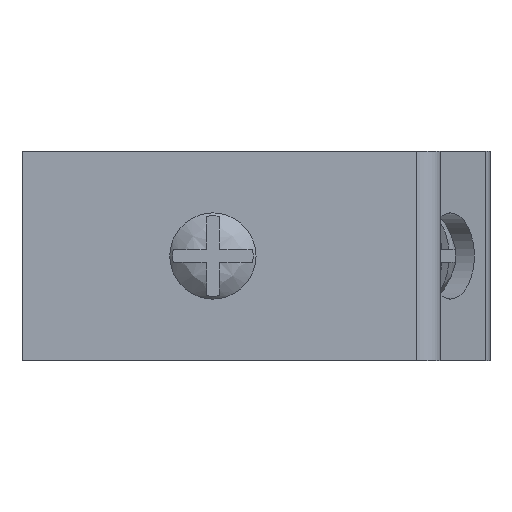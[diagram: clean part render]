
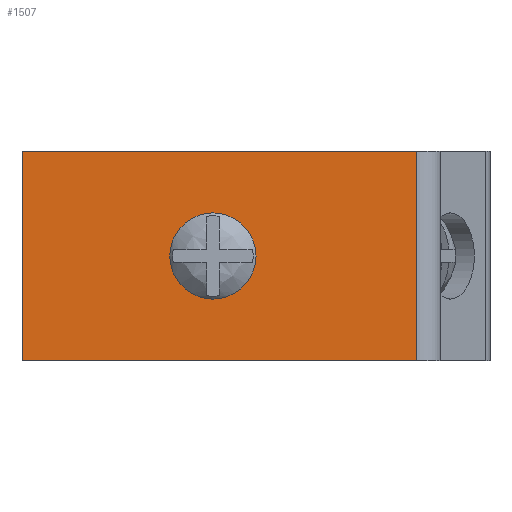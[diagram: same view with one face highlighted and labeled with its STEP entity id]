
A CAD part, left-side view. The second image highlights one B-rep face of the part: STEP entity #1507.
In plain terms, the highlighted planar face has unit normal (-1, 0, 0).
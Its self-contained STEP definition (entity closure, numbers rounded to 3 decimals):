
#149=LINE('',#2489,#288);
#150=LINE('',#2493,#289);
#151=LINE('',#2495,#290);
#152=LINE('',#2496,#291);
#288=VECTOR('',#1995,10.);
#289=VECTOR('',#2000,10.);
#290=VECTOR('',#2001,10.);
#291=VECTOR('',#2002,10.);
#350=FACE_BOUND('',#524,.T.);
#419=FACE_OUTER_BOUND('',#523,.T.);
#523=EDGE_LOOP('',(#1213,#1214,#1215,#1216));
#524=EDGE_LOOP('',(#1217));
#579=CIRCLE('',#1611,3.5);
#686=VERTEX_POINT('',#2382);
#724=VERTEX_POINT('',#2486);
#725=VERTEX_POINT('',#2488);
#726=VERTEX_POINT('',#2492);
#727=VERTEX_POINT('',#2494);
#862=EDGE_CURVE('',#686,#686,#579,.T.);
#911=EDGE_CURVE('',#725,#724,#149,.T.);
#913=EDGE_CURVE('',#724,#726,#150,.T.);
#914=EDGE_CURVE('',#727,#726,#151,.T.);
#915=EDGE_CURVE('',#725,#727,#152,.T.);
#1213=ORIENTED_EDGE('',*,*,#913,.T.);
#1214=ORIENTED_EDGE('',*,*,#914,.F.);
#1215=ORIENTED_EDGE('',*,*,#915,.F.);
#1216=ORIENTED_EDGE('',*,*,#911,.T.);
#1217=ORIENTED_EDGE('',*,*,#862,.T.);
#1425=PLANE('',#1645);
#1507=ADVANCED_FACE('',(#419,#350),#1425,.T.);
#1611=AXIS2_PLACEMENT_3D('',#2383,#1895,#1896);
#1645=AXIS2_PLACEMENT_3D('',#2491,#1998,#1999);
#1895=DIRECTION('center_axis',(1.,0.,0.));
#1896=DIRECTION('ref_axis',(0.,0.,1.));
#1995=DIRECTION('',(0.,0.,1.));
#1998=DIRECTION('center_axis',(-1.,0.,0.));
#1999=DIRECTION('ref_axis',(0.,0.,1.));
#2000=DIRECTION('',(0.,1.,0.));
#2001=DIRECTION('',(0.,0.,1.));
#2002=DIRECTION('',(0.,1.,0.));
#2382=CARTESIAN_POINT('',(-20.,2.5,12.));
#2383=CARTESIAN_POINT('Origin',(-20.,2.5,8.5));
#2486=CARTESIAN_POINT('',(-20.,-14.,17.));
#2488=CARTESIAN_POINT('',(-20.,-14.,0.));
#2489=CARTESIAN_POINT('',(-20.,-14.,0.));
#2491=CARTESIAN_POINT('Origin',(-20.,-14.,0.));
#2492=CARTESIAN_POINT('',(-20.,18.,17.));
#2493=CARTESIAN_POINT('',(-20.,-14.,17.));
#2494=CARTESIAN_POINT('',(-20.,18.,0.));
#2495=CARTESIAN_POINT('',(-20.,18.,0.));
#2496=CARTESIAN_POINT('',(-20.,-14.,0.));
